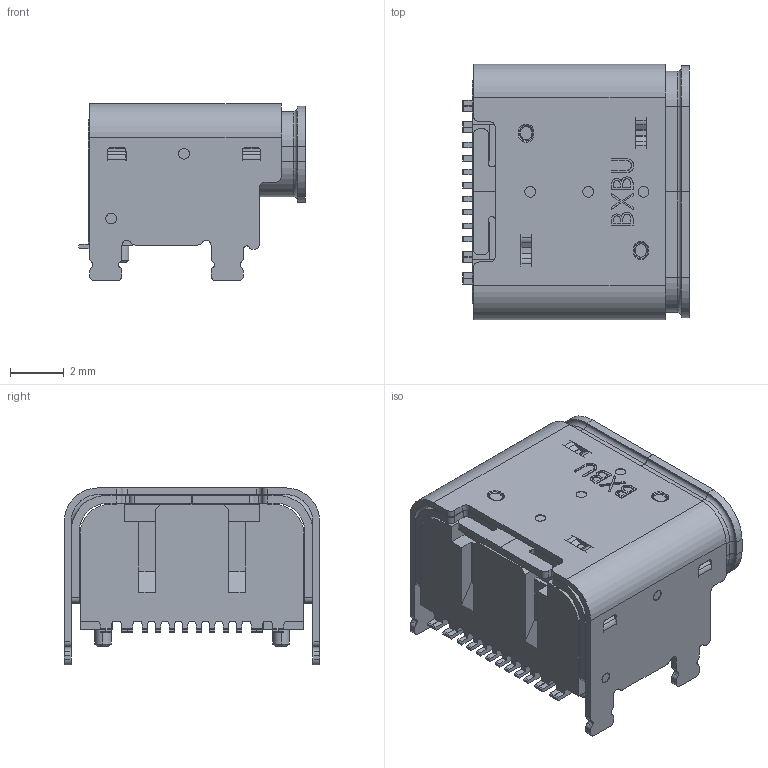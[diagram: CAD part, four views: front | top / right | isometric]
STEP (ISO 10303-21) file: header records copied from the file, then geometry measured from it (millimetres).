
FILE_DESCRIPTION((' '),'2;1');
FILE_NAME( 'U5100-16PNQ1.9G8.0L.stp', '2026-05-14T09:57:31', (' '), ('--- ---'), ' V2026.1 Dec 31 2025', ' 2026 (c)', ' ');
FILE_SCHEMA(('AP242_MANAGED_MODEL_BASED_3D_ENGINEERING_MIM_LF { 1 0 10303 442 1 1 4 }'));
Length unit declared in the file: millimetre
Products named in the file (1): U5100-16PNQ1.9G8.0L
Bounding box: 8.41 x 9.47 x 6.59 mm (x, y, z)
Volume: 194 mm3; surface area: 850.7 mm2
Topology: 1 solids, 1 shells, 1066 faces, 3165 edges, 2086 vertices
Faces by surface type: plane 669, cylinder 332, torus 32, bspline 25, cone 8
Entity records: 37090 total; most frequent: CARTESIAN_POINT 8012, ORIENTED_EDGE 6330, DIRECTION 5875, EDGE_CURVE 3165, VECTOR 2345, LINE 2345, VERTEX_POINT 2086, AXIS2_PLACEMENT_3D 1765
